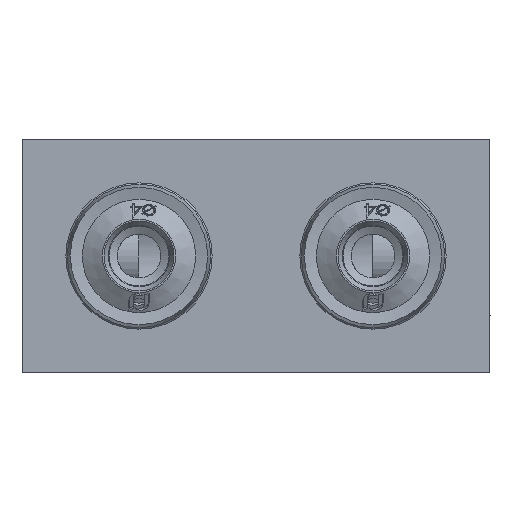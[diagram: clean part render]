
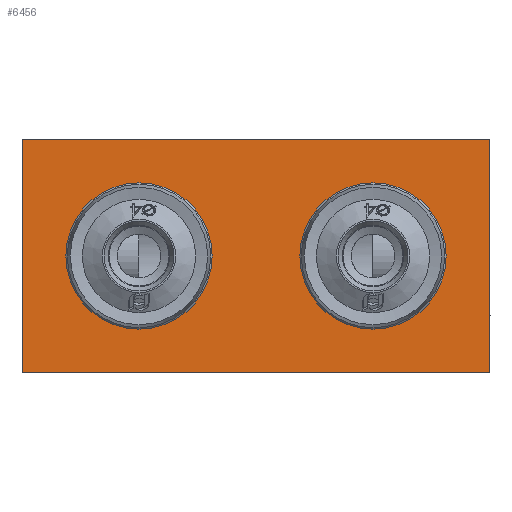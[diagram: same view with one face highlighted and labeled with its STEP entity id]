
A CAD part, front view. The second image highlights one B-rep face of the part: STEP entity #6456.
In plain terms, the highlighted planar face has unit normal (0, -1, 0).
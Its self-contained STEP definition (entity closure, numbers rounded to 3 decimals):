
#92=LINE('',#14390,#272);
#116=LINE('',#14575,#296);
#132=LINE('',#14769,#312);
#133=LINE('',#14777,#313);
#272=VECTOR('',#7894,1000.);
#296=VECTOR('',#7922,1000.);
#312=VECTOR('',#7952,1000.);
#313=VECTOR('',#7961,1000.);
#510=PLANE('',#7035);
#2684=ORIENTED_EDGE('',*,*,#3794,.T.);
#2685=ORIENTED_EDGE('',*,*,#3795,.T.);
#2686=ORIENTED_EDGE('',*,*,#3730,.T.);
#2687=ORIENTED_EDGE('',*,*,#3792,.F.);
#2688=ORIENTED_EDGE('',*,*,#3763,.F.);
#2689=ORIENTED_EDGE('',*,*,#3796,.T.);
#3730=EDGE_CURVE('',#5310,#5308,#92,.T.);
#3763=EDGE_CURVE('',#5342,#5339,#116,.T.);
#3792=EDGE_CURVE('',#5339,#5308,#132,.T.);
#3794=EDGE_CURVE('',#5370,#5370,#4070,.T.);
#3795=EDGE_CURVE('',#5371,#5371,#4071,.T.);
#3796=EDGE_CURVE('',#5342,#5310,#133,.T.);
#4070=CIRCLE('',#7036,4.682);
#4071=CIRCLE('',#7037,4.682);
#4592=EDGE_LOOP('',(#2684));
#4593=EDGE_LOOP('',(#2685));
#4594=EDGE_LOOP('',(#2686,#2687,#2688,#2689));
#5308=VERTEX_POINT('',#14388);
#5310=VERTEX_POINT('',#14391);
#5339=VERTEX_POINT('',#14569);
#5342=VERTEX_POINT('',#14574);
#5370=VERTEX_POINT('',#14774);
#5371=VERTEX_POINT('',#14776);
#5958=FACE_BOUND('',#4592,.T.);
#5959=FACE_BOUND('',#4593,.T.);
#5960=FACE_BOUND('',#4594,.T.);
#6456=ADVANCED_FACE('',(#5958,#5959,#5960),#510,.F.);
#7035=AXIS2_PLACEMENT_3D('',#14772,#7955,#7956);
#7036=AXIS2_PLACEMENT_3D('',#14773,#7957,#7958);
#7037=AXIS2_PLACEMENT_3D('',#14775,#7959,#7960);
#7894=DIRECTION('',(1.,0.,0.));
#7922=DIRECTION('',(1.,0.,0.));
#7952=DIRECTION('',(0.,0.,-1.));
#7955=DIRECTION('',(0.,1.,0.));
#7956=DIRECTION('',(-1.,0.,0.));
#7957=DIRECTION('',(0.,1.,0.));
#7958=DIRECTION('',(0.,0.,1.));
#7959=DIRECTION('',(0.,1.,0.));
#7960=DIRECTION('',(0.,0.,1.));
#7961=DIRECTION('',(0.,0.,-1.));
#14388=CARTESIAN_POINT('',(0.,-13.,-8.));
#14390=CARTESIAN_POINT('',(-32.,-13.,-8.));
#14391=CARTESIAN_POINT('',(-32.,-13.,-8.));
#14569=CARTESIAN_POINT('',(0.,-13.,8.));
#14574=CARTESIAN_POINT('',(-32.,-13.,8.));
#14575=CARTESIAN_POINT('',(-32.,-13.,8.));
#14769=CARTESIAN_POINT('',(0.,-13.,8.));
#14772=CARTESIAN_POINT('',(0.,-13.,-8.));
#14773=CARTESIAN_POINT('',(-24.,-13.,0.));
#14774=CARTESIAN_POINT('',(-24.,-13.,4.682));
#14775=CARTESIAN_POINT('',(-8.,-13.,0.));
#14776=CARTESIAN_POINT('',(-8.,-13.,4.682));
#14777=CARTESIAN_POINT('',(-32.,-13.,8.));
